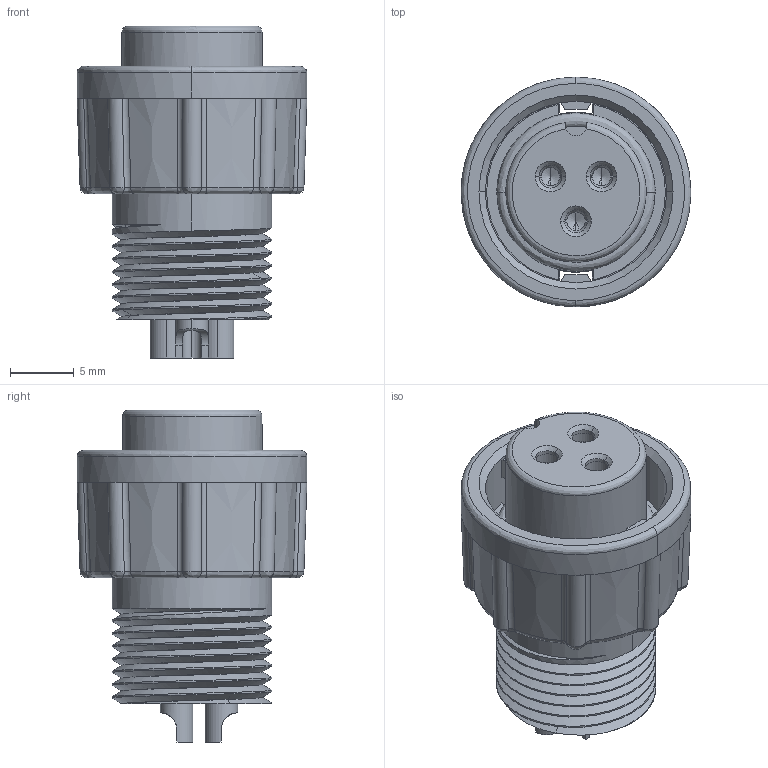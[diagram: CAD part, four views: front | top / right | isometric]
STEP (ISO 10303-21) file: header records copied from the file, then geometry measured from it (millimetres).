
FILE_DESCRIPTION (( 'STEP AP203' ), '1' );
FILE_NAME ('868-03A-203R001.STEP', '2024-06-13T20:10:16', ( '' ), ( '' ), 'SwSTEP 2.0', 'SolidWorks 2020', '' );
FILE_SCHEMA (( 'CONFIG_CONTROL_DESIGN' ));
Length unit declared in the file: millimetre
Products named in the file (1): 868-03A-203R001
Bounding box: 18 x 18 x 26 mm (x, y, z)
Volume: 3089.2 mm3; surface area: 3643.1 mm2
Topology: 1 solids, 1 shells, 281 faces, 725 edges, 448 vertices
Faces by surface type: cylinder 98, plane 76, cone 59, bspline 48
Entity records: 19287 total; most frequent: CARTESIAN_POINT 13187, ORIENTED_EDGE 1426, DIRECTION 1030, EDGE_CURVE 713, VERTEX_POINT 448, AXIS2_PLACEMENT_3D 422, EDGE_LOOP 299, B_SPLINE_CURVE_WITH_KNOTS 295
